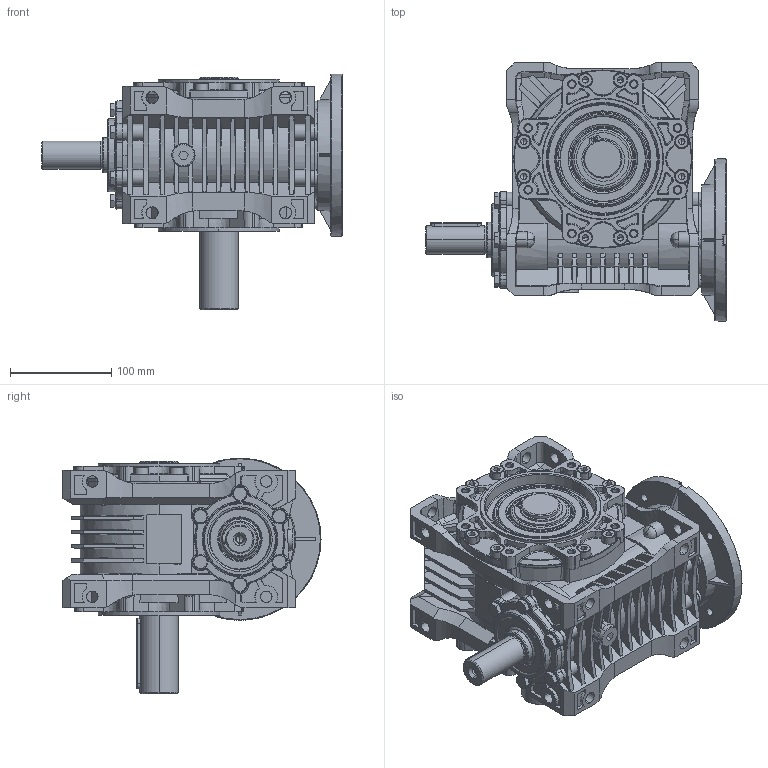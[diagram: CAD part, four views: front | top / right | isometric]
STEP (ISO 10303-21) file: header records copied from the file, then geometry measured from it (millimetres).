
FILE_DESCRIPTION (( 'STEP AP203' ), '1' );
FILE_NAME ('MR-80_160-28-WBS-WJ_1-3D.STEP', '2024-05-07T08:57:37', ( '' ), ( '' ), 'SwSTEP 2.0', 'SolidWorks 2022', '' );
FILE_SCHEMA (( 'CONFIG_CONTROL_DESIGN' ));
Length unit declared in the file: millimetre
Products named in the file (1): MR-80_160-28-WBS-WJ_1-3D
Bounding box: 297 x 255.23 x 233.17 mm (x, y, z)
Volume: 4467064.5 mm3; surface area: 487046.9 mm2
Topology: 1 solids, 40 shells, 3217 faces, 8379 edges, 5282 vertices
Faces by surface type: plane 1227, cone 970, cylinder 451, bspline 294, torus 275
Entity records: 111630 total; most frequent: CARTESIAN_POINT 36100, ORIENTED_EDGE 16512, DIRECTION 15063, EDGE_CURVE 8256, AXIS2_PLACEMENT_3D 5793, VERTEX_POINT 5282, VECTOR 3477, LINE 3477
